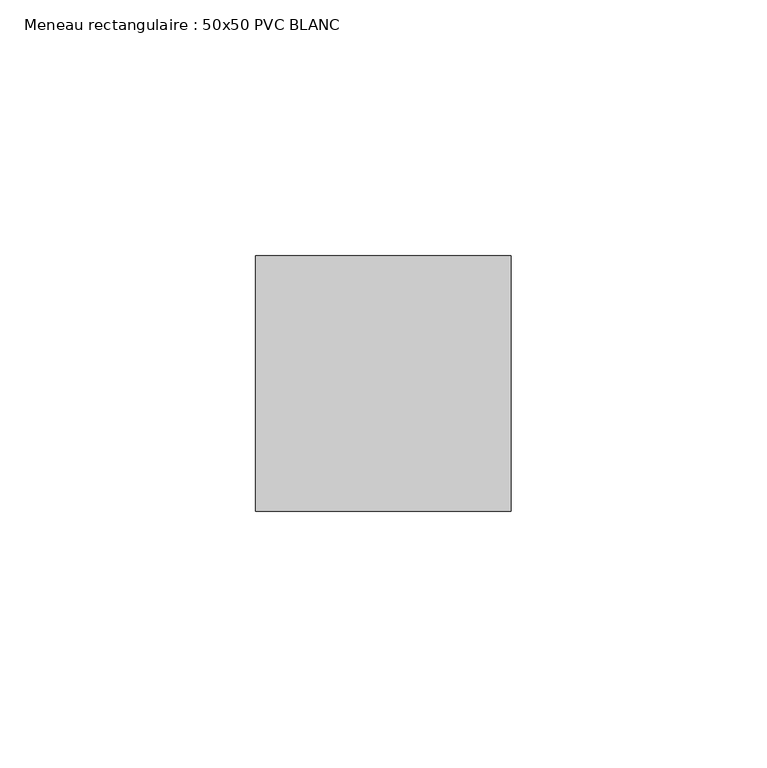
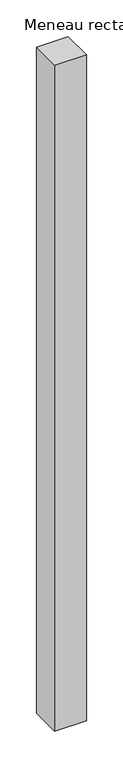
"""IFC4 building model written with IfcOpenShell, lengths in millimetres: member geometry, Meneau rectangulaire : 50x50 PVC BLANC."""

from ifc_helpers import new_model, si_unit, frame, origin, place, context, project, spatial, polyline, outline, extrude, source, transform, mapped, element, save


def meneau_rectangulaire_50x50_pvc_blanc_8f07f1eb(model_context):
    return source(origin(), model_context, "Body", "SweptSolid", [
        extrude(outline(polyline([(0.0, 0.0), (0.0, -50.0), (-50.0, -50.0), (-50.0, 0.0), (0.0, 0.0)])), frame((0.0, 0.0, -1111.5), z_axis=(0.0, 0.0, 1.0), x_axis=(1.0, 0.0, 0.0)), (0.0, 0.0, 1.0), 1111.5),
    ])


if __name__ == "__main__":
    model = new_model("IFC4")
    model_context = context("Model", 3, world=origin())
    ifc_project = project(units=[si_unit("LENGTHUNIT", "METRE", prefix="MILLI")], contexts=[model_context])
    site = spatial("IfcSite", under=ifc_project)
    building = spatial("IfcBuilding", under=site)
    placement = place(None, origin())
    meneau_rectangulaire_50x50_pvc_blanc_shape = meneau_rectangulaire_50x50_pvc_blanc_8f07f1eb(model_context)
    element("IfcMember", 1, ObjectType="Meneau rectangulaire : 50x50 PVC BLANC", at=placement, inside=building, context=model_context, shape_type="MappedRepresentation", body=[
        mapped(meneau_rectangulaire_50x50_pvc_blanc_shape, transform((0.0, 0.0, 0.0), x_axis=(1.0, 0.0, 0.0), y_axis=(0.0, 1.0, 0.0), z_axis=(0.0, 0.0, 1.0))),
    ])
    save(model, "model.ifc")
